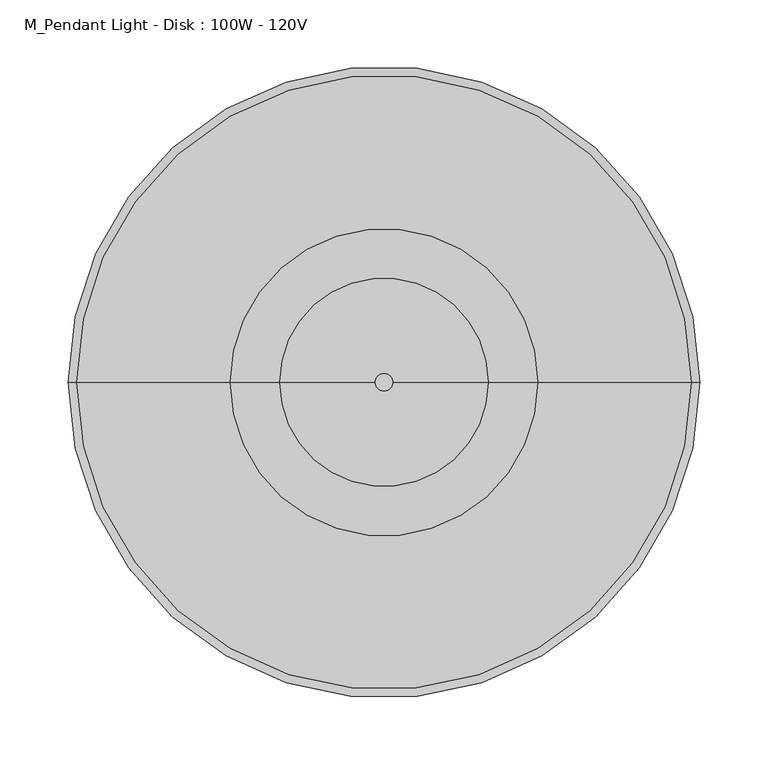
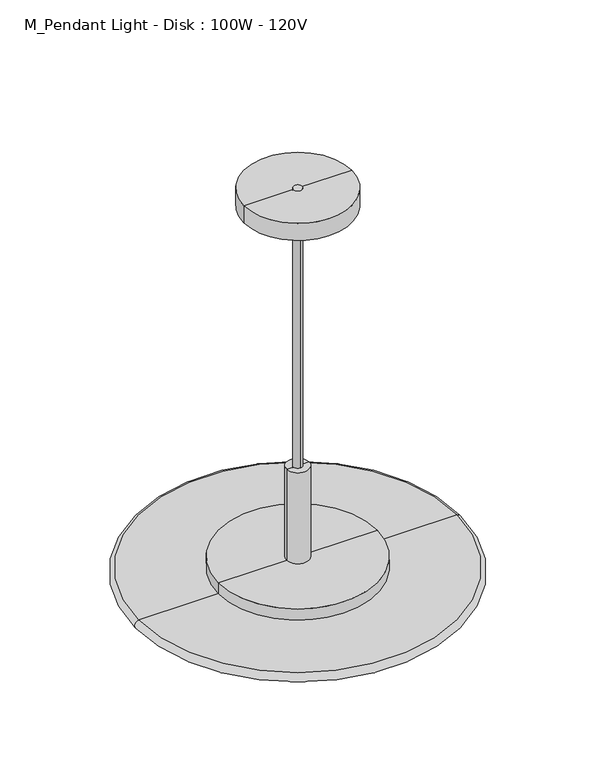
"""IFC4 building model written with IfcOpenShell, lengths in millimetres: light fixture geometry, M_Pendant Light - Disk : 100W - 120V."""

from ifc_helpers import new_model, si_unit, point, frame, origin, origin_2d, place, context, project, spatial, polyline, circle_curve, ellipse_curve, trimmed, segment, composite_curve, outline, extrude, source, transform, mapped, element, save
from ifc_brep_helpers import plane_surface, cylinder_surface, revolved_surface, advanced_brep


def m_pendant_light_disk_100w_120v_a7a090af(model_context):
    return source(origin(), model_context, "Body", "SolidModel", [
        advanced_brep(
        [(15.875, 0.0, 1886.475253), (-15.875, 0.0, 1886.475253), (-15.875, 0.0, 2022.55), (15.875, 0.0, 2022.55), (112.5, 0.0, 1886.475253), (-112.5, 0.0, 1886.475253), (112.5, 0.0, 1851.1000062), (-112.5, 0.0, 1851.1000062), (38.1, 0.0, 1851.1000062), (-38.1, 0.0, 1851.1000062), (38.1, 0.0, 1870.15), (-38.1, 0.0, 1870.15), (0.0, 0.0, 1870.15), (0.0, 0.0, 2022.55)],
        [
            (0, 1, circle_curve(frame((0.0, 0.0, 1886.475253), z_axis=(0.0, 0.0, 1.0), x_axis=(-1.0, 0.0, 0.0)), 15.875)),
            (1, 2),
            (2, 3, circle_curve(frame((0.0, 0.0, 2022.55), z_axis=(0.0, 0.0, -1.0), x_axis=(-1.0, 0.0, 0.0)), 15.875)),
            (3, 0),
            (1, 0, circle_curve(frame((0.0, 0.0, 1886.475253), z_axis=(0.0, 0.0, 1.0), x_axis=(-1.0, 0.0, 0.0)), 15.875)),
            (3, 2, circle_curve(frame((0.0, 0.0, 2022.55), z_axis=(0.0, 0.0, -1.0), x_axis=(-1.0, 0.0, 0.0)), 15.875)),
            (4, 5, circle_curve(frame((0.0, 0.0, 1886.475253), z_axis=(0.0, 0.0, 1.0), x_axis=(-1.0, 0.0, 0.0)), 112.5)),
            (5, 1),
            (0, 4),
            (5, 4, circle_curve(frame((0.0, 0.0, 1886.475253), z_axis=(0.0, 0.0, 1.0), x_axis=(-1.0, 0.0, 0.0)), 112.5)),
            (6, 7, circle_curve(frame((0.0, 0.0, 1851.1000062), z_axis=(0.0, 0.0, 1.0), x_axis=(-1.0, 0.0, 0.0)), 112.5)),
            (7, 5),
            (4, 6),
            (7, 6, circle_curve(frame((0.0, 0.0, 1851.1000062), z_axis=(0.0, 0.0, 1.0), x_axis=(-1.0, 0.0, 0.0)), 112.5)),
            (8, 9, circle_curve(frame((0.0, 0.0, 1851.1000062), z_axis=(0.0, 0.0, 1.0), x_axis=(-1.0, 0.0, 0.0)), 38.1)),
            (9, 7),
            (6, 8),
            (9, 8, circle_curve(frame((0.0, 0.0, 1851.1000062), z_axis=(0.0, 0.0, 1.0), x_axis=(-1.0, 0.0, 0.0)), 38.1)),
            (10, 11, circle_curve(frame((0.0, 0.0, 1870.15), z_axis=(0.0, 0.0, 1.0), x_axis=(-1.0, 0.0, 0.0)), 38.1)),
            (11, 9),
            (8, 10),
            (11, 10, circle_curve(frame((0.0, 0.0, 1870.15), z_axis=(0.0, 0.0, 1.0), x_axis=(-1.0, 0.0, 0.0)), 38.1)),
            (12, 11),
            (10, 12),
            (2, 13),
            (13, 3),
        ],
        [
            cylinder_surface(frame((0.0, 0.0, 2046.6629221), z_axis=(0.0, 0.0, -1.0), x_axis=(-1.0, 0.0, 0.0)), 15.875),
            plane_surface(frame((0.0, 0.0, 1886.475253), z_axis=(0.0, 0.0, 1.0), x_axis=(-1.0, 0.0, 0.0))),
            cylinder_surface(frame((0.0, 0.0, 2046.6629221), z_axis=(0.0, 0.0, -1.0), x_axis=(-1.0, 0.0, 0.0)), 112.5),
            plane_surface(frame((0.0, 0.0, 1851.1000062), z_axis=(0.0, 0.0, -1.0), x_axis=(-1.0, 0.0, 0.0))),
            revolved_surface(polyline([(-38.1, 0.0, 1851.1000062), (-38.1, 0.0, 1870.15)]), (0.0, 0.0, 2046.6629221), (0.0, 0.0, -1.0)),
            plane_surface(frame((0.0, 0.0, 1870.15), z_axis=(0.0, 0.0, -1.0), x_axis=(-1.0, 0.0, 0.0))),
            plane_surface(frame((0.0, 0.0, 2022.55), z_axis=(0.0, 0.0, 1.0), x_axis=(-1.0, 0.0, 0.0))),
        ],
        [
            (0, [[1, 2, 3, 4]]),
            (0, [[5, -4, 6, -2]]),
            (1, [[7, 8, -1, 9]]),
            (1, [[10, -9, -5, -8]]),
            (2, [[11, 12, -7, 13]]),
            (2, [[14, -13, -10, -12]]),
            (3, [[15, 16, -11, 17]]),
            (3, [[18, -17, -14, -16]]),
            (4, [[19, 20, -15, 21]]),
            (4, [[22, -21, -18, -20]]),
            (5, [[23, -19, 24]]),
            (5, [[-24, -22, -23]]),
            (6, [[-3, 25, 26]]),
            (6, [[-6, -26, -25]]),
        ],
    ),
        extrude(outline(composite_curve([segment(trimmed(circle_curve(origin_2d(), 6.35), [point((0.0, 6.35))], [point((0.0, -6.35))], False, "CARTESIAN"), True, "CONTINUOUS"), segment(trimmed(circle_curve(origin_2d(), 6.35), [point((0.0, -6.35))], [point((0.0, 6.35))], False, "CARTESIAN"), True, "CONTINUOUS")], self_intersect=False)), frame((0.0, 0.0, 1851.1000062), z_axis=(0.0, 0.0, 1.0), x_axis=(1.0, 0.0, 0.0)), (0.0, 0.0, 1.0), 587.3),
        advanced_brep(
        [(0.0, 0.0, 1857.45), (-225.0, 0.0, 1857.45), (225.0, 0.0, 1857.45), (225.0, 0.0, 1870.15), (-225.0, 0.0, 1870.15), (0.0, 0.0, 1870.15)],
        [
            (0, 1),
            (1, 2, circle_curve(frame((0.0, 0.0, 1857.45), z_axis=(0.0, 0.0, -1.0), x_axis=(-1.0, 0.0, 0.0)), 225.0)),
            (2, 0),
            (2, 1, circle_curve(frame((0.0, 0.0, 1857.45), z_axis=(0.0, 0.0, -1.0), x_axis=(-1.0, 0.0, 0.0)), 225.0)),
            (3, 4, circle_curve(frame((0.0, 0.0, 1870.15), z_axis=(0.0, 0.0, 1.0), x_axis=(-1.0, 0.0, 0.0)), 225.0)),
            (4, 5),
            (5, 3),
            (4, 3, circle_curve(frame((0.0, 0.0, 1870.15), z_axis=(0.0, 0.0, 1.0), x_axis=(-1.0, 0.0, 0.0)), 225.0)),
            (1, 4, circle_curve(frame((-225.0, 0.0, 1863.8), z_axis=(0.0, 1.0, 0.0), x_axis=(0.0, 0.0, -1.0)), 6.35)),
            (3, 2, circle_curve(frame((225.0, 0.0, 1863.8), z_axis=(0.0, 1.0, 0.0), x_axis=(0.0, 0.0, -1.0)), 6.35)),
        ],
        [
            plane_surface(frame((0.0, 0.0, 1857.45), z_axis=(0.0, 0.0, -1.0), x_axis=(-1.0, 0.0, 0.0))),
            plane_surface(frame((0.0, 0.0, 1870.15), z_axis=(0.0, 0.0, 1.0), x_axis=(-1.0, 0.0, 0.0))),
            revolved_surface(trimmed(ellipse_curve(frame((-225.0, 0.0, 1863.8), z_axis=(0.0, -1.0, 0.0), x_axis=(0.0, 0.0, -1.0)), 6.35, 6.35), [point((-225.0, 0.0, 1870.15))], [point((-225.0, 0.0, 1857.45))], True, "CARTESIAN"), (0.0, 0.0, 1935.2510876), (0.0, 0.0, -1.0)),
        ],
        [
            (0, [[1, 2, 3]]),
            (0, [[-3, 4, -1]]),
            (1, [[5, 6, 7]]),
            (1, [[8, -7, -6]]),
            (2, [[-2, 9, -5, 10]]),
            (2, [[-4, -10, -8, -9]]),
        ],
    ),
        advanced_brep(
        [(76.2, 0.0, 2413.0000062), (-76.2, 0.0, 2413.0000062), (-76.2, 0.0, 2438.4000062), (76.2, 0.0, 2438.4000062), (0.0, 0.0, 2377.4673627), (0.0, 0.0, 2438.4000062)],
        [
            (0, 1, circle_curve(frame((0.0, 0.0, 2413.0000062), z_axis=(0.0, 0.0, 1.0), x_axis=(-1.0, 0.0, 0.0)), 76.2)),
            (1, 2),
            (2, 3, circle_curve(frame((0.0, 0.0, 2438.4000062), z_axis=(0.0, 0.0, -1.0), x_axis=(-1.0, 0.0, 0.0)), 76.2)),
            (3, 0),
            (1, 0, circle_curve(frame((0.0, 0.0, 2413.0000062), z_axis=(0.0, 0.0, 1.0), x_axis=(-1.0, 0.0, 0.0)), 76.2)),
            (3, 2, circle_curve(frame((0.0, 0.0, 2438.4000062), z_axis=(0.0, 0.0, -1.0), x_axis=(-1.0, 0.0, 0.0)), 76.2)),
            (4, 1),
            (0, 4),
            (2, 5),
            (5, 3),
        ],
        [
            cylinder_surface(frame((0.0, 0.0, 2514.6000062), z_axis=(0.0, 0.0, -1.0), x_axis=(-1.0, 0.0, 0.0)), 76.2),
            revolved_surface(polyline([(-76.2, 0.0, 2413.0000062), (0.0, 0.0, 2377.4673627)]), (0.0, 0.0, 2514.6000062), (0.0, 0.0, -1.0)),
            plane_surface(frame((0.0, 0.0, 2438.4000062), z_axis=(0.0, 0.0, 1.0), x_axis=(-1.0, 0.0, 0.0))),
        ],
        [
            (0, [[1, 2, 3, 4]]),
            (0, [[5, -4, 6, -2]]),
            (1, [[7, -1, 8]]),
            (1, [[-8, -5, -7]]),
            (2, [[-3, 9, 10]]),
            (2, [[-6, -10, -9]]),
        ],
    ),
    ])


if __name__ == "__main__":
    model = new_model("IFC4")
    model_context = context("Model", 3, world=origin())
    ifc_project = project(units=[si_unit("LENGTHUNIT", "METRE", prefix="MILLI")], contexts=[model_context])
    site = spatial("IfcSite", under=ifc_project)
    building = spatial("IfcBuilding", under=site)
    placement = place(None, origin())
    m_pendant_light_disk_100w_120v_shape = m_pendant_light_disk_100w_120v_a7a090af(model_context)
    element("IfcLightFixture", 1, ObjectType="M_Pendant Light - Disk : 100W - 120V", at=placement, inside=building, context=model_context, shape_type="MappedRepresentation", body=[
        mapped(m_pendant_light_disk_100w_120v_shape, transform((0.0, 0.0, 0.0), x_axis=(1.0, 0.0, 0.0), y_axis=(0.0, 1.0, 0.0), z_axis=(0.0, 0.0, 1.0))),
    ])
    save(model, "model.ifc")
